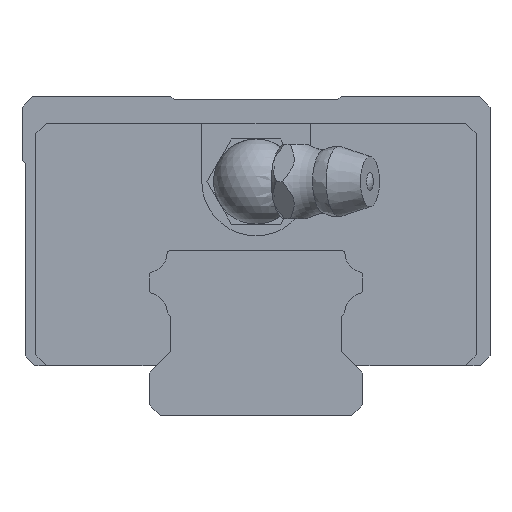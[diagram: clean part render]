
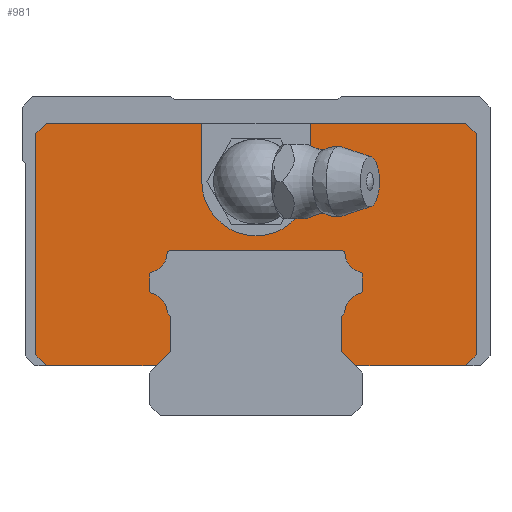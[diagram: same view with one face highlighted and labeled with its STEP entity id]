
A CAD part, front view. The second image highlights one B-rep face of the part: STEP entity #981.
In plain terms, the highlighted planar face has unit normal (0, -1, 0).
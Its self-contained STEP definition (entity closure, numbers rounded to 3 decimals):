
#333=LINE('',#4143,#571);
#338=LINE('',#4153,#576);
#339=LINE('',#4155,#577);
#340=LINE('',#4158,#578);
#341=LINE('',#4164,#579);
#342=LINE('',#4172,#580);
#343=LINE('',#4180,#581);
#344=LINE('',#4186,#582);
#345=LINE('',#4188,#583);
#346=LINE('',#4190,#584);
#347=LINE('',#4192,#585);
#348=LINE('',#4194,#586);
#349=LINE('',#4196,#587);
#350=LINE('',#4198,#588);
#351=LINE('',#4200,#589);
#352=LINE('',#4201,#590);
#353=LINE('',#4203,#591);
#354=LINE('',#4205,#592);
#355=LINE('',#4207,#593);
#356=LINE('',#4209,#594);
#357=LINE('',#4211,#595);
#571=VECTOR('',#3366,1.);
#576=VECTOR('',#3375,1.);
#577=VECTOR('',#3378,1.);
#578=VECTOR('',#3379,1.);
#579=VECTOR('',#3384,1.);
#580=VECTOR('',#3391,1.);
#581=VECTOR('',#3398,1.);
#582=VECTOR('',#3403,1.);
#583=VECTOR('',#3404,1.);
#584=VECTOR('',#3405,1.);
#585=VECTOR('',#3406,1.);
#586=VECTOR('',#3407,1.);
#587=VECTOR('',#3408,1.);
#588=VECTOR('',#3409,1.);
#589=VECTOR('',#3410,1.);
#590=VECTOR('',#3411,1.);
#591=VECTOR('',#3412,1.);
#592=VECTOR('',#3413,1.);
#593=VECTOR('',#3414,1.);
#594=VECTOR('',#3415,1.);
#595=VECTOR('',#3416,1.);
#981=ADVANCED_FACE('',(#1233),#1137,.T.);
#1137=PLANE('',#3073);
#1233=FACE_OUTER_BOUND('',#1362,.T.);
#1362=EDGE_LOOP('',(#1595,#1596,#1597,#1598,#1599,#1600,#1601,#1602,#1603,
#1604,#1605,#1606,#1607,#1608,#1609,#1610,#1611,#1612,#1613,#1614,#1615,
#1616,#1617,#1618,#1619,#1620,#1621,#1622,#1623,#1624,#1625,#1626));
#1595=ORIENTED_EDGE('',*,*,#2578,.F.);
#1596=ORIENTED_EDGE('',*,*,#2579,.F.);
#1597=ORIENTED_EDGE('',*,*,#2580,.F.);
#1598=ORIENTED_EDGE('',*,*,#2581,.F.);
#1599=ORIENTED_EDGE('',*,*,#2582,.F.);
#1600=ORIENTED_EDGE('',*,*,#2583,.F.);
#1601=ORIENTED_EDGE('',*,*,#2584,.F.);
#1602=ORIENTED_EDGE('',*,*,#2585,.F.);
#1603=ORIENTED_EDGE('',*,*,#2586,.F.);
#1604=ORIENTED_EDGE('',*,*,#2587,.F.);
#1605=ORIENTED_EDGE('',*,*,#2588,.F.);
#1606=ORIENTED_EDGE('',*,*,#2589,.F.);
#1607=ORIENTED_EDGE('',*,*,#2590,.F.);
#1608=ORIENTED_EDGE('',*,*,#2591,.F.);
#1609=ORIENTED_EDGE('',*,*,#2592,.F.);
#1610=ORIENTED_EDGE('',*,*,#2593,.F.);
#1611=ORIENTED_EDGE('',*,*,#2594,.F.);
#1612=ORIENTED_EDGE('',*,*,#2595,.F.);
#1613=ORIENTED_EDGE('',*,*,#2596,.F.);
#1614=ORIENTED_EDGE('',*,*,#2597,.F.);
#1615=ORIENTED_EDGE('',*,*,#2598,.F.);
#1616=ORIENTED_EDGE('',*,*,#2599,.F.);
#1617=ORIENTED_EDGE('',*,*,#2600,.F.);
#1618=ORIENTED_EDGE('',*,*,#2572,.T.);
#1619=ORIENTED_EDGE('',*,*,#2567,.T.);
#1620=ORIENTED_EDGE('',*,*,#2577,.T.);
#1621=ORIENTED_EDGE('',*,*,#2601,.F.);
#1622=ORIENTED_EDGE('',*,*,#2602,.F.);
#1623=ORIENTED_EDGE('',*,*,#2603,.F.);
#1624=ORIENTED_EDGE('',*,*,#2604,.F.);
#1625=ORIENTED_EDGE('',*,*,#2605,.F.);
#1626=ORIENTED_EDGE('',*,*,#2606,.F.);
#2303=VERTEX_POINT('',#4130);
#2304=VERTEX_POINT('',#4132);
#2308=VERTEX_POINT('',#4144);
#2310=VERTEX_POINT('',#4152);
#2311=VERTEX_POINT('',#4156);
#2312=VERTEX_POINT('',#4157);
#2313=VERTEX_POINT('',#4159);
#2314=VERTEX_POINT('',#4161);
#2315=VERTEX_POINT('',#4163);
#2316=VERTEX_POINT('',#4165);
#2317=VERTEX_POINT('',#4167);
#2318=VERTEX_POINT('',#4169);
#2319=VERTEX_POINT('',#4171);
#2320=VERTEX_POINT('',#4173);
#2321=VERTEX_POINT('',#4175);
#2322=VERTEX_POINT('',#4177);
#2323=VERTEX_POINT('',#4179);
#2324=VERTEX_POINT('',#4181);
#2325=VERTEX_POINT('',#4183);
#2326=VERTEX_POINT('',#4185);
#2327=VERTEX_POINT('',#4187);
#2328=VERTEX_POINT('',#4189);
#2329=VERTEX_POINT('',#4191);
#2330=VERTEX_POINT('',#4193);
#2331=VERTEX_POINT('',#4195);
#2332=VERTEX_POINT('',#4197);
#2333=VERTEX_POINT('',#4199);
#2334=VERTEX_POINT('',#4202);
#2335=VERTEX_POINT('',#4204);
#2336=VERTEX_POINT('',#4206);
#2337=VERTEX_POINT('',#4208);
#2338=VERTEX_POINT('',#4210);
#2567=EDGE_CURVE('',#2304,#2303,#2933,.T.);
#2572=EDGE_CURVE('',#2308,#2304,#333,.T.);
#2577=EDGE_CURVE('',#2303,#2310,#338,.T.);
#2578=EDGE_CURVE('',#2311,#2312,#339,.T.);
#2579=EDGE_CURVE('',#2313,#2311,#340,.T.);
#2580=EDGE_CURVE('',#2314,#2313,#2936,.T.);
#2581=EDGE_CURVE('',#2315,#2314,#2937,.T.);
#2582=EDGE_CURVE('',#2316,#2315,#341,.T.);
#2583=EDGE_CURVE('',#2317,#2316,#2938,.T.);
#2584=EDGE_CURVE('',#2318,#2317,#2939,.T.);
#2585=EDGE_CURVE('',#2319,#2318,#2940,.T.);
#2586=EDGE_CURVE('',#2320,#2319,#342,.T.);
#2587=EDGE_CURVE('',#2321,#2320,#2941,.T.);
#2588=EDGE_CURVE('',#2322,#2321,#2942,.T.);
#2589=EDGE_CURVE('',#2323,#2322,#2943,.T.);
#2590=EDGE_CURVE('',#2324,#2323,#343,.T.);
#2591=EDGE_CURVE('',#2325,#2324,#2944,.T.);
#2592=EDGE_CURVE('',#2326,#2325,#2945,.T.);
#2593=EDGE_CURVE('',#2327,#2326,#344,.T.);
#2594=EDGE_CURVE('',#2328,#2327,#345,.T.);
#2595=EDGE_CURVE('',#2329,#2328,#346,.T.);
#2596=EDGE_CURVE('',#2330,#2329,#347,.T.);
#2597=EDGE_CURVE('',#2331,#2330,#348,.T.);
#2598=EDGE_CURVE('',#2332,#2331,#349,.T.);
#2599=EDGE_CURVE('',#2333,#2332,#350,.T.);
#2600=EDGE_CURVE('',#2308,#2333,#351,.T.);
#2601=EDGE_CURVE('',#2334,#2310,#352,.T.);
#2602=EDGE_CURVE('',#2335,#2334,#353,.T.);
#2603=EDGE_CURVE('',#2336,#2335,#354,.T.);
#2604=EDGE_CURVE('',#2337,#2336,#355,.T.);
#2605=EDGE_CURVE('',#2338,#2337,#356,.T.);
#2606=EDGE_CURVE('',#2312,#2338,#357,.T.);
#2933=CIRCLE('',#3054,5.1);
#2936=CIRCLE('',#3063,1.9);
#2937=CIRCLE('',#3064,0.3);
#2938=CIRCLE('',#3065,0.3);
#2939=CIRCLE('',#3066,1.9);
#2940=CIRCLE('',#3067,0.3);
#2941=CIRCLE('',#3068,0.3);
#2942=CIRCLE('',#3069,1.9);
#2943=CIRCLE('',#3070,0.3);
#2944=CIRCLE('',#3071,0.3);
#2945=CIRCLE('',#3072,1.9);
#3054=AXIS2_PLACEMENT_3D('',#4131,#3352,#3353);
#3063=AXIS2_PLACEMENT_3D('',#4160,#3380,#3381);
#3064=AXIS2_PLACEMENT_3D('',#4162,#3382,#3383);
#3065=AXIS2_PLACEMENT_3D('',#4166,#3385,#3386);
#3066=AXIS2_PLACEMENT_3D('',#4168,#3387,#3388);
#3067=AXIS2_PLACEMENT_3D('',#4170,#3389,#3390);
#3068=AXIS2_PLACEMENT_3D('',#4174,#3392,#3393);
#3069=AXIS2_PLACEMENT_3D('',#4176,#3394,#3395);
#3070=AXIS2_PLACEMENT_3D('',#4178,#3396,#3397);
#3071=AXIS2_PLACEMENT_3D('',#4182,#3399,#3400);
#3072=AXIS2_PLACEMENT_3D('',#4184,#3401,#3402);
#3073=AXIS2_PLACEMENT_3D('',#4212,#3417,#3418);
#3352=DIRECTION('',(0.,1.,0.));
#3353=DIRECTION('',(-1.,0.,0.));
#3366=DIRECTION('',(0.,0.,-1.));
#3375=DIRECTION('',(0.,0.,1.));
#3378=DIRECTION('',(0.,0.,-1.));
#3379=DIRECTION('',(0.707,0.,-0.707));
#3380=DIRECTION('',(0.,1.,0.));
#3381=DIRECTION('',(0.,0.,-1.));
#3382=DIRECTION('',(0.,-1.,0.));
#3383=DIRECTION('',(0.,0.,-1.));
#3384=DIRECTION('',(0.,0.,-1.));
#3385=DIRECTION('',(0.,-1.,0.));
#3386=DIRECTION('',(0.,0.,-1.));
#3387=DIRECTION('',(0.,1.,0.));
#3388=DIRECTION('',(0.,0.,-1.));
#3389=DIRECTION('',(0.,-1.,0.));
#3390=DIRECTION('',(0.,0.,-1.));
#3391=DIRECTION('',(-1.,0.,0.));
#3392=DIRECTION('',(0.,-1.,0.));
#3393=DIRECTION('',(0.,0.,-1.));
#3394=DIRECTION('',(0.,1.,0.));
#3395=DIRECTION('',(0.,0.,-1.));
#3396=DIRECTION('',(0.,-1.,0.));
#3397=DIRECTION('',(0.,0.,-1.));
#3398=DIRECTION('',(0.,0.,1.));
#3399=DIRECTION('',(0.,-1.,0.));
#3400=DIRECTION('',(0.,0.,-1.));
#3401=DIRECTION('',(0.,1.,0.));
#3402=DIRECTION('',(0.,0.,-1.));
#3403=DIRECTION('',(0.707,0.,0.707));
#3404=DIRECTION('',(0.,0.,1.));
#3405=DIRECTION('',(-0.707,0.,0.707));
#3406=DIRECTION('',(-1.,0.,0.));
#3407=DIRECTION('',(-0.707,0.,-0.707));
#3408=DIRECTION('',(0.,0.,-1.));
#3409=DIRECTION('',(0.707,0.,-0.707));
#3410=DIRECTION('',(1.,0.,0.));
#3411=DIRECTION('',(1.,0.,0.));
#3412=DIRECTION('',(0.707,0.,0.707));
#3413=DIRECTION('',(0.,0.,1.));
#3414=DIRECTION('',(-0.707,0.,0.707));
#3415=DIRECTION('',(-1.,0.,0.));
#3416=DIRECTION('',(-0.707,0.,-0.707));
#3417=DIRECTION('',(0.,-1.,0.));
#3418=DIRECTION('',(0.,0.,-1.));
#4130=CARTESIAN_POINT('',(-5.1,-19.6,22.));
#4131=CARTESIAN_POINT('',(0.,-19.6,22.));
#4132=CARTESIAN_POINT('',(5.1,-19.6,22.));
#4143=CARTESIAN_POINT('',(5.1,-19.6,27.5));
#4144=CARTESIAN_POINT('',(5.1,-19.6,27.5));
#4152=CARTESIAN_POINT('',(-5.1,-19.6,27.5));
#4153=CARTESIAN_POINT('',(-5.1,-19.6,22.));
#4155=CARTESIAN_POINT('',(-8.,-19.6,22.));
#4156=CARTESIAN_POINT('',(-8.,-19.6,9.3));
#4157=CARTESIAN_POINT('',(-8.,-19.6,6.));
#4158=CARTESIAN_POINT('',(-10.35,-19.6,11.65));
#4159=CARTESIAN_POINT('',(-8.349,-19.6,9.649));
#4160=CARTESIAN_POINT('',(-10.249,-19.6,9.651));
#4161=CARTESIAN_POINT('',(-9.775,-19.6,11.49));
#4162=CARTESIAN_POINT('',(-9.7,-19.6,11.781));
#4163=CARTESIAN_POINT('',(-10.,-19.6,11.781));
#4164=CARTESIAN_POINT('',(-10.,-19.6,22.));
#4165=CARTESIAN_POINT('',(-10.,-19.6,13.219));
#4166=CARTESIAN_POINT('',(-9.7,-19.6,13.219));
#4167=CARTESIAN_POINT('',(-9.775,-19.6,13.51));
#4168=CARTESIAN_POINT('',(-10.249,-19.6,15.349));
#4169=CARTESIAN_POINT('',(-8.354,-19.6,15.22));
#4170=CARTESIAN_POINT('',(-8.055,-19.6,15.2));
#4171=CARTESIAN_POINT('',(-8.055,-19.6,15.5));
#4172=CARTESIAN_POINT('',(0.,-19.6,15.5));
#4173=CARTESIAN_POINT('',(8.055,-19.6,15.5));
#4174=CARTESIAN_POINT('',(8.055,-19.6,15.2));
#4175=CARTESIAN_POINT('',(8.354,-19.6,15.22));
#4176=CARTESIAN_POINT('',(10.249,-19.6,15.349));
#4177=CARTESIAN_POINT('',(9.775,-19.6,13.51));
#4178=CARTESIAN_POINT('',(9.7,-19.6,13.219));
#4179=CARTESIAN_POINT('',(10.,-19.6,13.219));
#4180=CARTESIAN_POINT('',(10.,-19.6,22.));
#4181=CARTESIAN_POINT('',(10.,-19.6,11.781));
#4182=CARTESIAN_POINT('',(9.7,-19.6,11.781));
#4183=CARTESIAN_POINT('',(9.775,-19.6,11.49));
#4184=CARTESIAN_POINT('',(10.249,-19.6,9.651));
#4185=CARTESIAN_POINT('',(8.349,-19.6,9.649));
#4186=CARTESIAN_POINT('',(10.35,-19.6,11.65));
#4187=CARTESIAN_POINT('',(8.,-19.6,9.3));
#4188=CARTESIAN_POINT('',(8.,-19.6,22.));
#4189=CARTESIAN_POINT('',(8.,-19.6,6.));
#4190=CARTESIAN_POINT('',(-4.,-19.6,18.));
#4191=CARTESIAN_POINT('',(9.3,-19.6,4.7));
#4192=CARTESIAN_POINT('',(19.7,-19.6,4.7));
#4193=CARTESIAN_POINT('',(19.7,-19.6,4.7));
#4194=CARTESIAN_POINT('',(20.7,-19.6,5.7));
#4195=CARTESIAN_POINT('',(20.7,-19.6,5.7));
#4196=CARTESIAN_POINT('',(20.7,-19.6,26.5));
#4197=CARTESIAN_POINT('',(20.7,-19.6,26.5));
#4198=CARTESIAN_POINT('',(19.7,-19.6,27.5));
#4199=CARTESIAN_POINT('',(19.7,-19.6,27.5));
#4200=CARTESIAN_POINT('',(-19.7,-19.6,27.5));
#4201=CARTESIAN_POINT('',(-19.7,-19.6,27.5));
#4202=CARTESIAN_POINT('',(-19.7,-19.6,27.5));
#4203=CARTESIAN_POINT('',(-20.7,-19.6,26.5));
#4204=CARTESIAN_POINT('',(-20.7,-19.6,26.5));
#4205=CARTESIAN_POINT('',(-20.7,-19.6,5.7));
#4206=CARTESIAN_POINT('',(-20.7,-19.6,5.7));
#4207=CARTESIAN_POINT('',(-19.7,-19.6,4.7));
#4208=CARTESIAN_POINT('',(-19.7,-19.6,4.7));
#4209=CARTESIAN_POINT('',(19.7,-19.6,4.7));
#4210=CARTESIAN_POINT('',(-9.3,-19.6,4.7));
#4211=CARTESIAN_POINT('',(4.,-19.6,18.));
#4212=CARTESIAN_POINT('',(0.,-19.6,22.));
